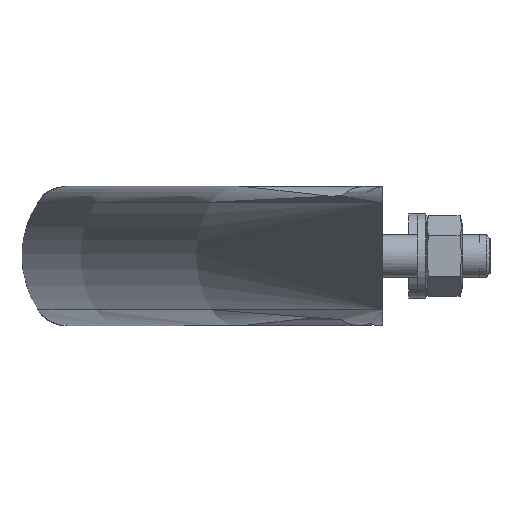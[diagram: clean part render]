
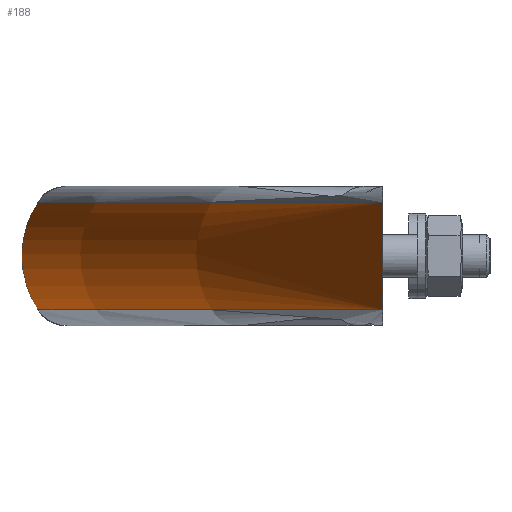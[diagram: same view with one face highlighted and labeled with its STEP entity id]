
A CAD part, left-side view. The second image highlights one B-rep face of the part: STEP entity #188.
In plain terms, the highlighted toroidal (fillet/blend) face has major radius 744.823 mm and minor radius 18.303 mm.
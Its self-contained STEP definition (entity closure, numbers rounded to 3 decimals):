
#188 = ADVANCED_FACE( '', ( #243 ), #244, .T. );
#243 = FACE_OUTER_BOUND( '', #349, .T. );
#244 = TOROIDAL_SURFACE( '', #350, 744.823, 18.303 );
#349 = EDGE_LOOP( '', ( #499, #500, #501, #502 ) );
#350 = AXIS2_PLACEMENT_3D( '', #503, #504, #505 );
#499 = ORIENTED_EDGE( '', *, *, #794, .F. );
#500 = ORIENTED_EDGE( '', *, *, #795, .T. );
#501 = ORIENTED_EDGE( '', *, *, #786, .T. );
#502 = ORIENTED_EDGE( '', *, *, #784, .T. );
#503 = CARTESIAN_POINT( '', ( 0., -694.625, 0. ) );
#504 = DIRECTION( '', ( 0., 0., -1. ) );
#505 = DIRECTION( '', ( -1., 0., 0. ) );
#784 = EDGE_CURVE( '', #896, #894, #897, .T. );
#786 = EDGE_CURVE( '', #899, #896, #900, .T. );
#794 = EDGE_CURVE( '', #910, #894, #911, .T. );
#795 = EDGE_CURVE( '', #910, #899, #912, .T. );
#894 = VERTEX_POINT( '', #1104 );
#896 = VERTEX_POINT( '', #1127 );
#897 = B_SPLINE_CURVE_WITH_KNOTS( '', 3, ( #1128, #1129, #1130, #1131, #1132, #1133, #1134, #1135, #1136, #1137, #1138, #1139, #1140, #1141, #1142, #1143, #1144, #1145, #1146, #1147, #1148, #1149 ), .UNSPECIFIED., .F., .F., ( 4, 2, 2, 2, 2, 2, 2, 2, 2, 2, 4 ), ( 0.222, 0.225, 0.229, 0.23, 0.232, 0.235, 0.238, 0.241, 0.243, 0.245, 0.248 ), .UNSPECIFIED. );
#899 = VERTEX_POINT( '', #1176 );
#900 = CIRCLE( '', #1177, 760.141 );
#910 = VERTEX_POINT( '', #1226 );
#911 = CIRCLE( '', #1227, 760.141 );
#912 = B_SPLINE_CURVE_WITH_KNOTS( '', 3, ( #1228, #1229, #1230, #1231, #1232, #1233, #1234, #1235, #1236, #1237, #1238, #1239, #1240, #1241, #1242, #1243, #1244, #1245, #1246, #1247, #1248, #1249, #1250, #1251, #1252, #1253, #1254, #1255, #1256, #1257, #1258, #1259, #1260, #1261 ), .UNSPECIFIED., .F., .F., ( 4, 2, 2, 2, 2, 2, 2, 2, 2, 2, 2, 2, 2, 2, 2, 2, 4 ), ( 0.221, 0.223, 0.224, 0.228, 0.229, 0.231, 0.232, 0.233, 0.234, 0.235, 0.235, 0.236, 0.237, 0.241, 0.242, 0.244, 0.247 ), .UNSPECIFIED. );
#1104 = CARTESIAN_POINT( '', ( 308.724, 0., -10.016 ) );
#1127 = CARTESIAN_POINT( '', ( 308.724, 0., 10.016 ) );
#1128 = CARTESIAN_POINT( '', ( 308.724, 0., 10.016 ) );
#1129 = CARTESIAN_POINT( '', ( 309.639, 0., 9.448 ) );
#1130 = CARTESIAN_POINT( '', ( 310.522, 0., 8.83 ) );
#1131 = CARTESIAN_POINT( '', ( 312.195, 0., 7.452 ) );
#1132 = CARTESIAN_POINT( '', ( 312.972, 0., 6.703 ) );
#1133 = CARTESIAN_POINT( '', ( 313.998, 0., 5.456 ) );
#1134 = CARTESIAN_POINT( '', ( 314.319, 0., 5.017 ) );
#1135 = CARTESIAN_POINT( '', ( 314.893, 0., 4.095 ) );
#1136 = CARTESIAN_POINT( '', ( 315.146, 0., 3.615 ) );
#1137 = CARTESIAN_POINT( '', ( 315.776, 0., 2.106 ) );
#1138 = CARTESIAN_POINT( '', ( 316.004, 0., 1.063 ) );
#1139 = CARTESIAN_POINT( '', ( 315.996, 0., -1.118 ) );
#1140 = CARTESIAN_POINT( '', ( 315.759, 0., -2.162 ) );
#1141 = CARTESIAN_POINT( '', ( 314.909, 0., -4.164 ) );
#1142 = CARTESIAN_POINT( '', ( 314.325, 0., -5.063 ) );
#1143 = CARTESIAN_POINT( '', ( 313.293, 0., -6.311 ) );
#1144 = CARTESIAN_POINT( '', ( 312.923, 0., -6.708 ) );
#1145 = CARTESIAN_POINT( '', ( 312.156, 0., -7.458 ) );
#1146 = CARTESIAN_POINT( '', ( 311.756, 0., -7.814 ) );
#1147 = CARTESIAN_POINT( '', ( 310.518, 0., -8.832 ) );
#1148 = CARTESIAN_POINT( '', ( 309.64, 0., -9.447 ) );
#1149 = CARTESIAN_POINT( '', ( 308.724, 0., -10.016 ) );
#1176 = CARTESIAN_POINT( '', ( -308.724, 0., 10.016 ) );
#1177 = AXIS2_PLACEMENT_3D( '', #1525, #1526, #1527 );
#1226 = CARTESIAN_POINT( '', ( -308.724, 0., -10.016 ) );
#1227 = AXIS2_PLACEMENT_3D( '', #1540, #1541, #1542 );
#1228 = CARTESIAN_POINT( '', ( -308.724, 0., -10.016 ) );
#1229 = CARTESIAN_POINT( '', ( -309.177, 0., -9.735 ) );
#1230 = CARTESIAN_POINT( '', ( -309.623, 0., -9.44 ) );
#1231 = CARTESIAN_POINT( '', ( -310.498, 0., -8.821 ) );
#1232 = CARTESIAN_POINT( '', ( -310.926, 0., -8.496 ) );
#1233 = CARTESIAN_POINT( '', ( -312.164, 0., -7.479 ) );
#1234 = CARTESIAN_POINT( '', ( -312.933, 0., -6.743 ) );
#1235 = CARTESIAN_POINT( '', ( -313.959, 0., -5.508 ) );
#1236 = CARTESIAN_POINT( '', ( -314.28, 0., -5.071 ) );
#1237 = CARTESIAN_POINT( '', ( -314.852, 0., -4.167 ) );
#1238 = CARTESIAN_POINT( '', ( -315.105, 0., -3.697 ) );
#1239 = CARTESIAN_POINT( '', ( -315.423, 0., -2.958 ) );
#1240 = CARTESIAN_POINT( '', ( -315.519, 0., -2.705 ) );
#1241 = CARTESIAN_POINT( '', ( -315.686, 0., -2.193 ) );
#1242 = CARTESIAN_POINT( '', ( -315.757, 0., -1.934 ) );
#1243 = CARTESIAN_POINT( '', ( -315.93, 0., -1.154 ) );
#1244 = CARTESIAN_POINT( '', ( -315.993, 0., -0.625 ) );
#1245 = CARTESIAN_POINT( '', ( -316.001, 0., 0.046 ) );
#1246 = CARTESIAN_POINT( '', ( -315.999, 0., 0.18 ) );
#1247 = CARTESIAN_POINT( '', ( -315.987, 0., 0.454 ) );
#1248 = CARTESIAN_POINT( '', ( -315.978, 0., 0.591 ) );
#1249 = CARTESIAN_POINT( '', ( -315.939, 0., 0.998 ) );
#1250 = CARTESIAN_POINT( '', ( -315.899, 0., 1.266 ) );
#1251 = CARTESIAN_POINT( '', ( -315.738, 0., 2.061 ) );
#1252 = CARTESIAN_POINT( '', ( -315.576, 0., 2.579 ) );
#1253 = CARTESIAN_POINT( '', ( -314.947, 0., 4.1 ) );
#1254 = CARTESIAN_POINT( '', ( -314.363, 0., 5.01 ) );
#1255 = CARTESIAN_POINT( '', ( -313.327, 0., 6.273 ) );
#1256 = CARTESIAN_POINT( '', ( -312.956, 0., 6.675 ) );
#1257 = CARTESIAN_POINT( '', ( -312.184, 0., 7.433 ) );
#1258 = CARTESIAN_POINT( '', ( -311.781, 0., 7.792 ) );
#1259 = CARTESIAN_POINT( '', ( -310.534, 0., 8.821 ) );
#1260 = CARTESIAN_POINT( '', ( -309.648, 0., 9.443 ) );
#1261 = CARTESIAN_POINT( '', ( -308.724, 0., 10.016 ) );
#1525 = CARTESIAN_POINT( '', ( 0., -694.625, 10.016 ) );
#1526 = DIRECTION( '', ( 0., 0., -1. ) );
#1527 = DIRECTION( '', ( -1., 0., 0. ) );
#1540 = CARTESIAN_POINT( '', ( 0., -694.625, -10.016 ) );
#1541 = DIRECTION( '', ( 0., 0., -1. ) );
#1542 = DIRECTION( '', ( -1., 0., 0. ) );
